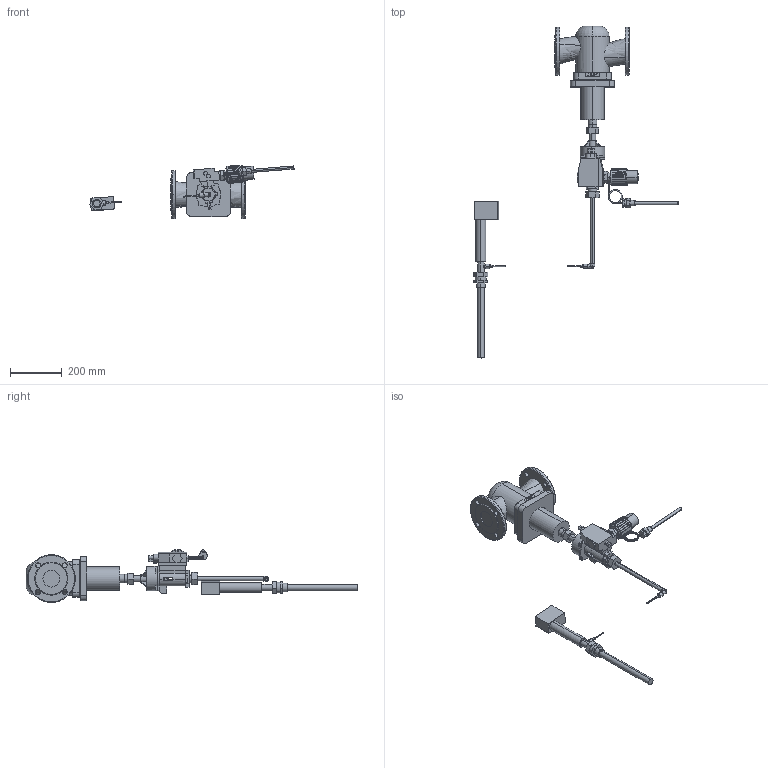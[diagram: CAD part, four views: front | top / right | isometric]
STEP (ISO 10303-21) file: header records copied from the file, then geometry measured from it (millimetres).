
FILE_DESCRIPTION (( 'STEP AP203' ), '1' );
FILE_NAME ('2111u(2114)_SS_DIN_065_025_EN-JS1049_B2_STD_2212_dn12-190_TR.STEP', '2010-03-15T09:25:39', ( '' ), ( '' ), 'SwSTEP 2.0', 'SolidWorks 2006303', '' );
FILE_SCHEMA (( 'CONFIG_CONTROL_DESIGN' ));
Length unit declared in the file: millimetre
Products named in the file (1): 2111u(2114)_SS_DIN_065_025_EN-JS1049_B2_STD_2212_dn12-190_TR
Bounding box: 788.34 x 1282.05 x 205.16 mm (x, y, z)
Surface area: 655926.2 mm2 (no closed solid volume)
Topology: 0 solids, 30 shells, 475 faces, 1635 edges, 1199 vertices
Faces by surface type: plane 278, cylinder 129, cone 37, torus 20, bspline 10, sphere 1
Entity records: 21580 total; most frequent: CARTESIAN_POINT 7608, DIRECTION 2802, ORIENTED_EDGE 2645, EDGE_CURVE 1635, VERTEX_POINT 1199, VECTOR 950, LINE 950, AXIS2_PLACEMENT_3D 926
